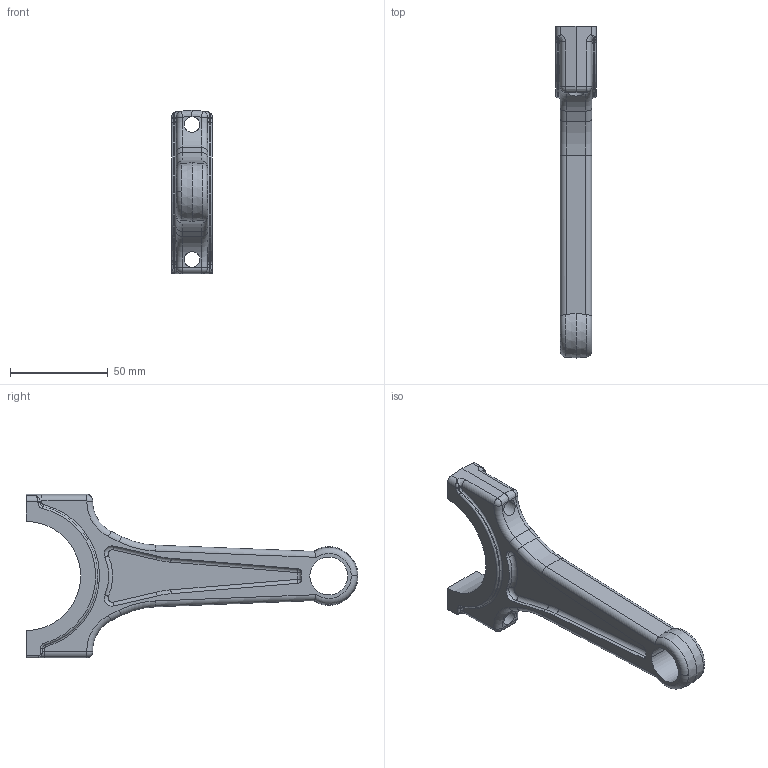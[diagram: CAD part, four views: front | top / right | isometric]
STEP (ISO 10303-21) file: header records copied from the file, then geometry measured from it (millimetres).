
FILE_DESCRIPTION(('CATIA V5 STEP Exchange'),'2;1');
FILE_NAME('E:\Ponnambalam\Projects\To Send\Demo Files\2. Group_Base_Mesh_Spec\Step 3 ApplyingGrpMshCtrlForSimilarParts\ConRod_WithVariationWithPublications.stp','2011-01-19T11:41:25+00:00',('none'),('none'),'CATIA Version 5 Release 19 GA (IN-10)','CATIA V5 STEP AP214','none');
FILE_SCHEMA(('AUTOMOTIVE_DESIGN { 1 0 10303 214 1 1 1 1 }'));
Length unit declared in the file: millimetre
Products named in the file (1): Part1
Bounding box: 21 x 170.11 x 83.8 mm (x, y, z)
Volume: 75433.3 mm3; surface area: 23047 mm2
Topology: 1 solids, 1 shells, 156 faces, 381 edges, 219 vertices
Faces by surface type: cylinder 70, torus 39, plane 27, bspline 10, sphere 8, cone 2
Entity records: 4873 total; most frequent: CARTESIAN_POINT 1495, ORIENTED_EDGE 742, DIRECTION 571, EDGE_CURVE 371, AXIS2_PLACEMENT_3D 314, VERTEX_POINT 219, CIRCLE 189, EDGE_LOOP 164
